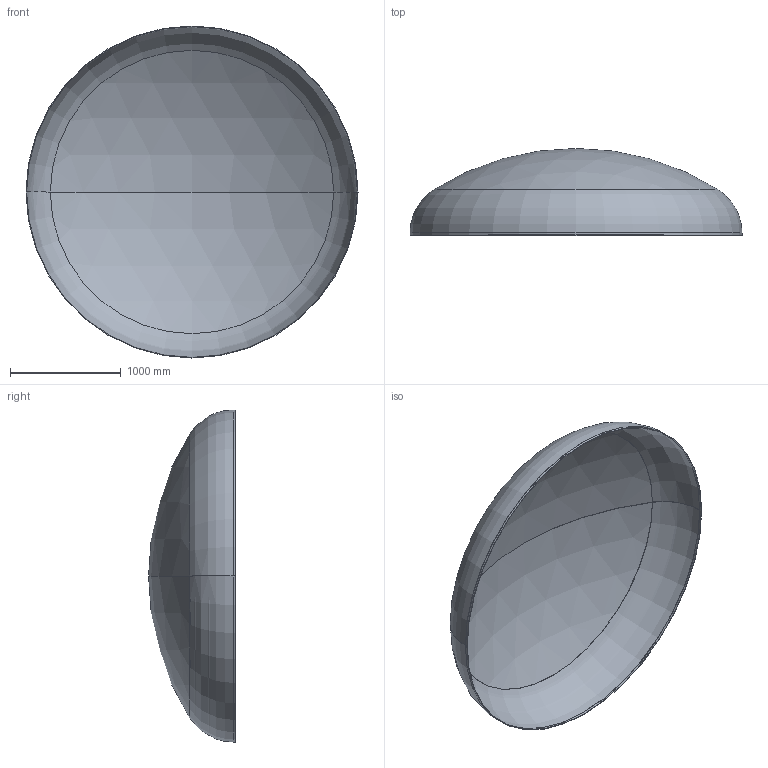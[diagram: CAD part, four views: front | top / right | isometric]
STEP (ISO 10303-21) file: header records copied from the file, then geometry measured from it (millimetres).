
FILE_DESCRIPTION (( 'STEP AP203' ), '1' );
FILE_NAME ('DIN 28013 Korbbogenform_-_Boden DIN 28013 - 3000 x 20 - I - s=5.step', '2016-07-01T17:25:26', ( '' ), ( '' ), 'SwSTEP 2.0', 'SolidWorks 2013', '' );
FILE_SCHEMA (( 'CONFIG_CONTROL_DESIGN' ));
Length unit declared in the file: millimetre
Products named in the file (1): DIN 28013 Korbbogenform_-_Boden DIN 28013 - 3000 x 20 - I - s=5
Bounding box: 3000 x 784.15 x 3000 mm (x, y, z)
Volume: 49746442.8 mm3; surface area: 19945666.6 mm2
Topology: 1 solids, 1 shells, 13 faces, 24 edges, 14 vertices
Faces by surface type: torus 4, cylinder 4, sphere 4, plane 1
Entity records: 407 total; most frequent: DIRECTION 72, CARTESIAN_POINT 52, ORIENTED_EDGE 48, AXIS2_PLACEMENT_3D 34, EDGE_CURVE 24, CIRCLE 20, VERTEX_POINT 14, EDGE_LOOP 14
